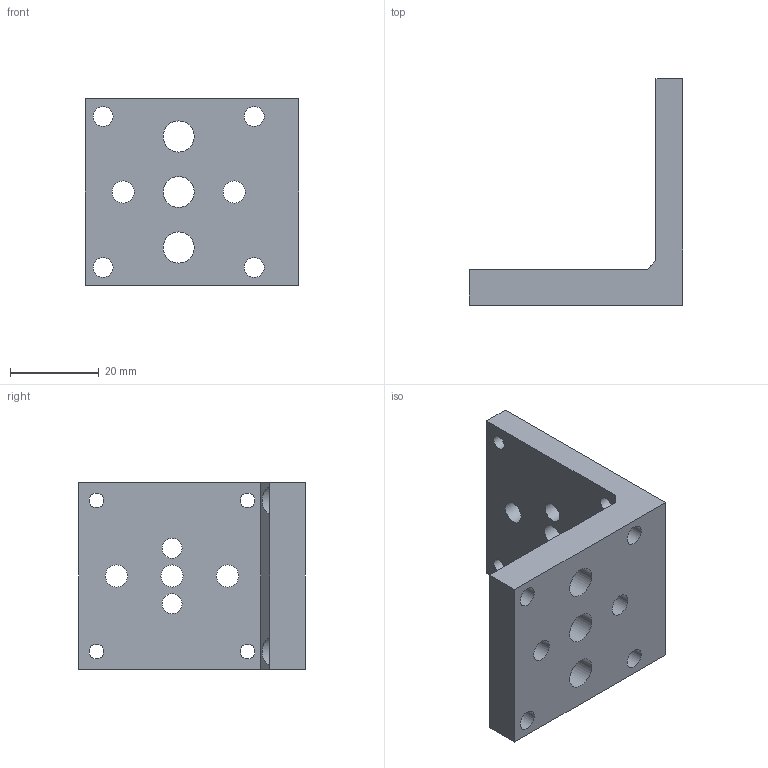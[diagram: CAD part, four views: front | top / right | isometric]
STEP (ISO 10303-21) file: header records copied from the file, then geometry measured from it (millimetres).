
FILE_DESCRIPTION (( 'STEP AP203' ), '1' );
FILE_NAME ('AB-42.step', '2017-01-11T07:13:06', ( '¦K¬P' ), ( '' ), 'SwSTEP 2.0', 'SolidWorks 2012', '' );
FILE_SCHEMA (( 'CONFIG_CONTROL_DESIGN' ));
Length unit declared in the file: millimetre
Products named in the file (1): AB-42
Bounding box: 48 x 51 x 42 mm (x, y, z)
Volume: 24540.5 mm3; surface area: 10811.8 mm2
Topology: 1 solids, 1 shells, 29 faces, 90 edges, 63 vertices
Faces by surface type: cylinder 20, plane 9
Full cylindrical faces by diameter (mm): 3.3 x4, 4.5 x6, 5 x5, 7 x3
Entity records: 1012 total; most frequent: DIRECTION 159, CARTESIAN_POINT 153, ORIENTED_EDGE 126, EDGE_LOOP 83, AXIS2_PLACEMENT_3D 68, EDGE_CURVE 63, VERTEX_POINT 54, FACE_OUTER_BOUND 47
